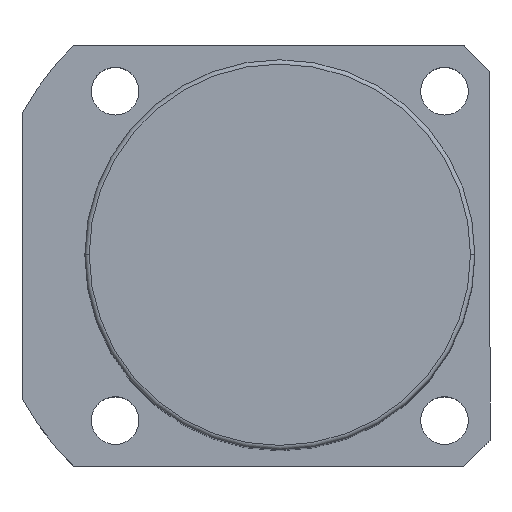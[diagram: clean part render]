
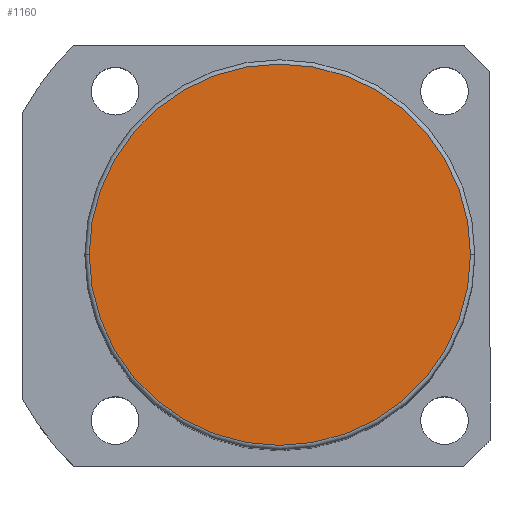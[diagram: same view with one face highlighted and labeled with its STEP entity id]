
A CAD part, top view. The second image highlights one B-rep face of the part: STEP entity #1160.
In plain terms, the highlighted planar face has unit normal (0, 0, 1).
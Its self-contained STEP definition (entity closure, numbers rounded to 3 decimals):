
#50 = DIRECTION ( 'NONE',  ( 0., 0., 1. ) ) ;
#130 = AXIS2_PLACEMENT_3D ( 'NONE', #1035, #50, #1049 ) ;
#134 = PLANE ( 'NONE',  #1543 ) ;
#148 = CARTESIAN_POINT ( 'NONE',  ( 0., 0., 166.5 ) ) ;
#305 = DIRECTION ( 'NONE',  ( 0., 0., 1. ) ) ;
#335 = CIRCLE ( 'NONE', #774, 44. ) ;
#409 = CARTESIAN_POINT ( 'NONE',  ( 44., 0., 166.5 ) ) ;
#426 = VERTEX_POINT ( 'NONE', #1362 ) ;
#562 = DIRECTION ( 'NONE',  ( 0., 0., 1. ) ) ;
#566 = VERTEX_POINT ( 'NONE', #409 ) ;
#700 = EDGE_CURVE ( 'NONE', #426, #566, #335, .T. ) ;
#774 = AXIS2_PLACEMENT_3D ( 'NONE', #1275, #305, #1701 ) ;
#783 = FACE_OUTER_BOUND ( 'NONE', #1662, .T. ) ;
#1035 = CARTESIAN_POINT ( 'NONE',  ( 0., 0., 166.5 ) ) ;
#1049 = DIRECTION ( 'NONE',  ( 1., 0., 0. ) ) ;
#1136 = DIRECTION ( 'NONE',  ( 1., 0., 0. ) ) ;
#1160 = ADVANCED_FACE ( 'NONE', ( #783 ), #134, .T. ) ;
#1275 = CARTESIAN_POINT ( 'NONE',  ( 0., 0., 166.5 ) ) ;
#1291 = EDGE_CURVE ( 'NONE', #566, #426, #1438, .T. ) ;
#1362 = CARTESIAN_POINT ( 'NONE',  ( -44., 0., 166.5 ) ) ;
#1438 = CIRCLE ( 'NONE', #130, 44. ) ;
#1461 = ORIENTED_EDGE ( 'NONE', *, *, #1291, .T. ) ;
#1543 = AXIS2_PLACEMENT_3D ( 'NONE', #148, #562, #1136 ) ;
#1610 = ORIENTED_EDGE ( 'NONE', *, *, #700, .T. ) ;
#1662 = EDGE_LOOP ( 'NONE', ( #1461, #1610 ) ) ;
#1701 = DIRECTION ( 'NONE',  ( 1., 0., 0. ) ) ;
